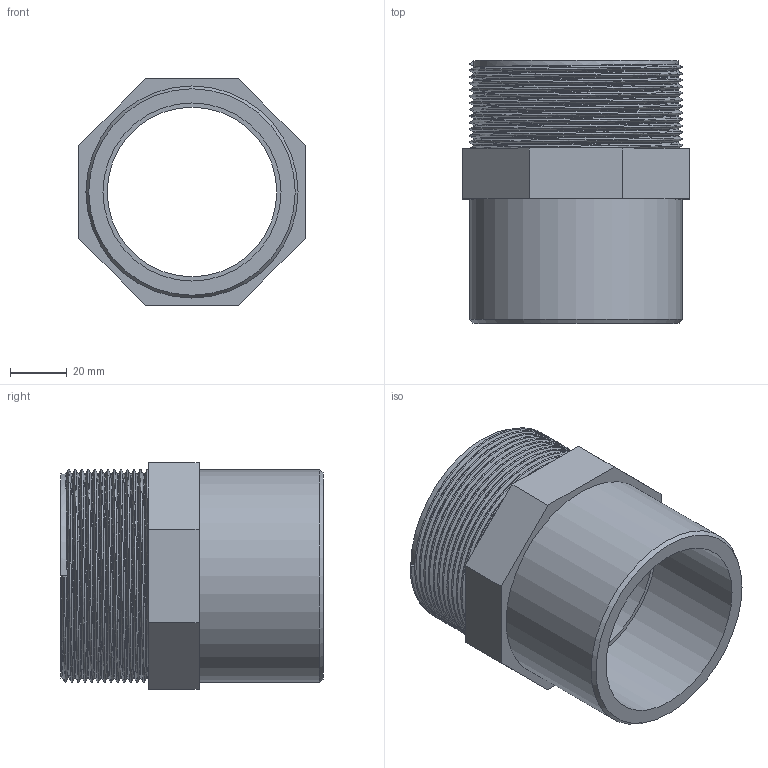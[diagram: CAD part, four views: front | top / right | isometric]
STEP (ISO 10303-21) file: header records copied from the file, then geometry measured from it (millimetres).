
FILE_DESCRIPTION(/* description */ ('PVC adattatore incollaggio-filettatura BSP maschio'),/* implementation_level */ '2;1');
FILE_NAME(/* name */ 'C:\Users\POLYPIPE\Desktop\DATASET INVENTOR\LIBRERIA EFFAST\RACCORDI 3DxWEB\RGR\3D_RGRAMG\3D_RGRAMG063H.stp',/* time_stamp */ '2018-01-19T17:36:51+01:00',/* author */ ('POLYPIPE'),/* organization */ ('Polypipe Italia s.r.l.'),/* preprocessor_version */ 'ST-DEVELOPER v16.1',/* originating_system */ 'Autodesk Inventor 2016',/* authorisation */ '');
FILE_SCHEMA (('CONFIG_CONTROL_DESIGN'));
Length unit declared in the file: millimetre
Products named in the file (1): 3D_RGRAMG
Bounding box: 80 x 93 x 80 mm (x, y, z)
Volume: 144029.4 mm3; surface area: 49857.1 mm2
Topology: 1 solids, 1 shells, 26 faces, 56 edges, 36 vertices
Faces by surface type: plane 15, cylinder 5, bspline 5, cone 1
Full cylindrical faces by diameter (mm): 60 x1, 61 x1, 63 x1, 72.226 x1, 75 x1
Entity records: 5571 total; most frequent: CARTESIAN_POINT 5018, ORIENTED_EDGE 102, DIRECTION 97, EDGE_CURVE 51, EDGE_LOOP 37, VERTEX_POINT 36, AXIS2_PLACEMENT_3D 35, LINE 27
